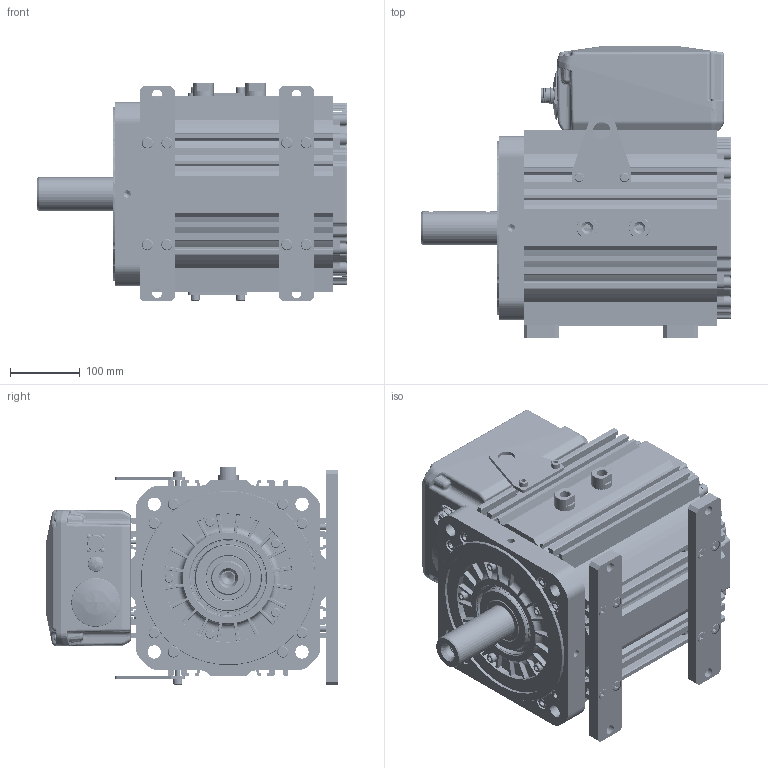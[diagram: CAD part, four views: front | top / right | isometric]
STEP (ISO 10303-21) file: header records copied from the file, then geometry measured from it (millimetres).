
FILE_DESCRIPTION((''),'2;1');
FILE_NAME('51560N-2_SW0001','2016-06-30T',('zhuanghaohui'),(''),'PRO/ENGINEER BY PARAMETRIC TECHNOLOGY CORPORATION, 2010430','PRO/ENGINEER BY PARAMETRIC TECHNOLOGY CORPORATION, 2010430','');
FILE_SCHEMA(('CONFIG_CONTROL_DESIGN'));
Products named in the file (1): 51560N-2_SW0001
Bounding box: 444.02 x 419.62 x 314.15 mm (x, y, z)
Surface area: 1999755.3 mm2 (no closed solid volume)
Topology: 0 solids, 158 shells, 3631 faces, 10934 edges, 7334 vertices
Faces by surface type: plane 1208, cylinder 1098, bspline 691, cone 323, torus 266, sphere 21, extrusion 16, revolution 8
Entity records: 249480 total; most frequent: CARTESIAN_POINT 156999, ORIENTED_EDGE 19008, DIRECTION 18123, EDGE_CURVE 10915, VERTEX_POINT 7334, AXIS2_PLACEMENT_3D 6784, VECTOR 4547, LINE 4531
